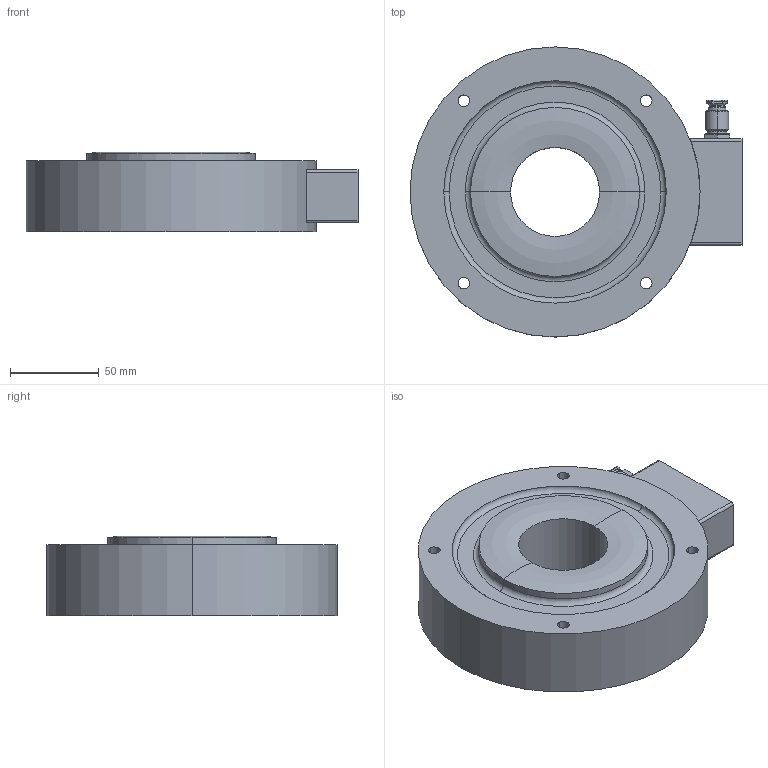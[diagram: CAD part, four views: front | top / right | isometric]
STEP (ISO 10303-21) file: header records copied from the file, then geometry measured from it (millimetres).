
FILE_DESCRIPTION((''),'1');
FILE_NAME('LRLA_30000-50000-75000_kg.step','2018-01-10T16:25:59',(''),(''),'','','');
FILE_SCHEMA(('AUTOMOTIVE_DESIGN { 1 0 10303 214 1 1 1 1 }'));
Products named in the file (4): LRLA 30000-50000-75000_kg; LRLA body 01; LRLA part 02; LRLA cable gland 01
Assembly tree (3 placements, depth 2):
  LRLA 30000-50000-75000_kg
    LRLA body 01
    LRLA part 02
    LRLA cable gland 01
Bounding box: 186.55 x 163 x 44.88 mm (x, y, z)
Volume: 785075.7 mm3; surface area: 80773.7 mm2
Topology: 3 solids, 3 shells, 99 faces, 216 edges, 130 vertices
Faces by surface type: cylinder 47, plane 34, torus 12, cone 6
Entity records: 3653 total; most frequent: DIRECTION 526, CARTESIAN_POINT 485, ORIENTED_EDGE 432, EDGE_CURVE 216, AXIS2_PLACEMENT_3D 211, VERTEX_POINT 130, EDGE_LOOP 116, LINE 104
